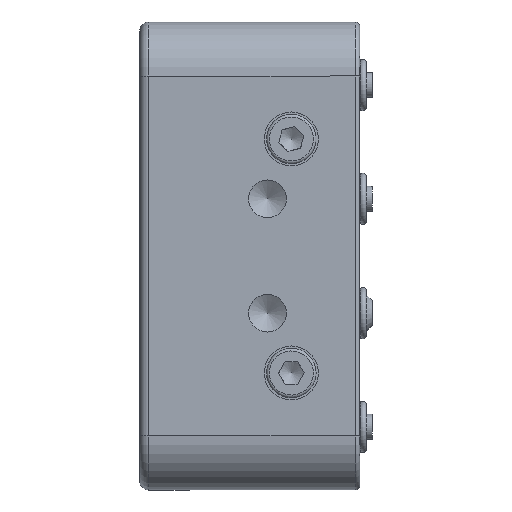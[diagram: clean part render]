
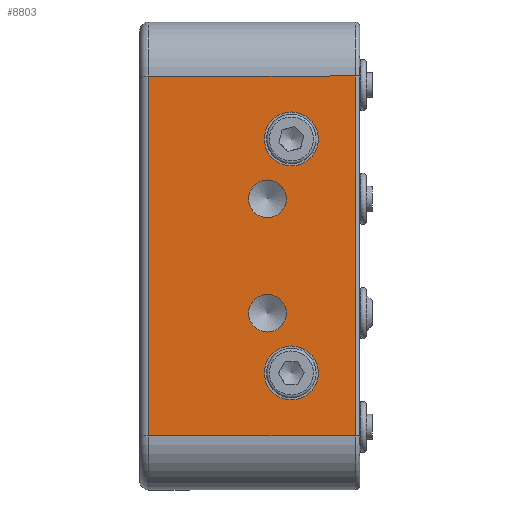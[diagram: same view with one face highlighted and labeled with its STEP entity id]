
A CAD part, left-side view. The second image highlights one B-rep face of the part: STEP entity #8803.
In plain terms, the highlighted planar face has unit normal (-1, 0, 0).
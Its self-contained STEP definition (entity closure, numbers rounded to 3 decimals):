
#276=FACE_BOUND('',#1423,.T.);
#277=FACE_BOUND('',#1424,.T.);
#278=FACE_BOUND('',#1425,.T.);
#279=FACE_BOUND('',#1426,.T.);
#464=PLANE('',#9731);
#885=FACE_OUTER_BOUND('',#1422,.T.);
#1422=EDGE_LOOP('',(#7358,#7359,#7360,#7361));
#1423=EDGE_LOOP('',(#7362,#7363));
#1424=EDGE_LOOP('',(#7364,#7365));
#1425=EDGE_LOOP('',(#7366,#7367));
#1426=EDGE_LOOP('',(#7368,#7369));
#1923=LINE('',#14502,#2537);
#2027=LINE('',#15665,#2641);
#2054=LINE('',#15784,#2668);
#2055=LINE('',#15786,#2669);
#2537=VECTOR('',#11467,10.);
#2641=VECTOR('',#11913,10.);
#2668=VECTOR('',#12056,10.);
#2669=VECTOR('',#12059,10.);
#3118=CIRCLE('',#9609,2.1);
#3119=CIRCLE('',#9610,2.1);
#3122=CIRCLE('',#9615,2.1);
#3123=CIRCLE('',#9616,2.1);
#3183=CIRCLE('',#9715,3.);
#3184=CIRCLE('',#9716,3.);
#3189=CIRCLE('',#9724,3.);
#3190=CIRCLE('',#9725,3.);
#3793=VERTEX_POINT('',#14495);
#3795=VERTEX_POINT('',#14501);
#3887=VERTEX_POINT('',#14918);
#3888=VERTEX_POINT('',#14919);
#3894=VERTEX_POINT('',#15031);
#3895=VERTEX_POINT('',#15032);
#3948=VERTEX_POINT('',#15657);
#3950=VERTEX_POINT('',#15663);
#3976=VERTEX_POINT('',#15754);
#3977=VERTEX_POINT('',#15755);
#3982=VERTEX_POINT('',#15771);
#3983=VERTEX_POINT('',#15772);
#4865=EDGE_CURVE('',#3793,#3795,#1923,.T.);
#5006=EDGE_CURVE('',#3887,#3888,#3118,.T.);
#5007=EDGE_CURVE('',#3888,#3887,#3119,.T.);
#5014=EDGE_CURVE('',#3894,#3895,#3122,.T.);
#5015=EDGE_CURVE('',#3895,#3894,#3123,.T.);
#5090=EDGE_CURVE('',#3950,#3948,#2027,.T.);
#5136=EDGE_CURVE('',#3976,#3977,#3183,.T.);
#5137=EDGE_CURVE('',#3977,#3976,#3184,.T.);
#5144=EDGE_CURVE('',#3982,#3983,#3189,.T.);
#5145=EDGE_CURVE('',#3983,#3982,#3190,.T.);
#5150=EDGE_CURVE('',#3948,#3793,#2054,.T.);
#5151=EDGE_CURVE('',#3795,#3950,#2055,.T.);
#7358=ORIENTED_EDGE('',*,*,#5090,.F.);
#7359=ORIENTED_EDGE('',*,*,#5151,.F.);
#7360=ORIENTED_EDGE('',*,*,#4865,.F.);
#7361=ORIENTED_EDGE('',*,*,#5150,.F.);
#7362=ORIENTED_EDGE('',*,*,#5006,.T.);
#7363=ORIENTED_EDGE('',*,*,#5007,.T.);
#7364=ORIENTED_EDGE('',*,*,#5014,.T.);
#7365=ORIENTED_EDGE('',*,*,#5015,.T.);
#7366=ORIENTED_EDGE('',*,*,#5136,.T.);
#7367=ORIENTED_EDGE('',*,*,#5137,.T.);
#7368=ORIENTED_EDGE('',*,*,#5144,.T.);
#7369=ORIENTED_EDGE('',*,*,#5145,.T.);
#8803=ADVANCED_FACE('',(#885,#276,#277,#278,#279),#464,.T.);
#9609=AXIS2_PLACEMENT_3D('',#14920,#11758,#11759);
#9610=AXIS2_PLACEMENT_3D('',#14921,#11760,#11761);
#9615=AXIS2_PLACEMENT_3D('',#15033,#11772,#11773);
#9616=AXIS2_PLACEMENT_3D('',#15034,#11774,#11775);
#9715=AXIS2_PLACEMENT_3D('',#15756,#12019,#12020);
#9716=AXIS2_PLACEMENT_3D('',#15757,#12021,#12022);
#9724=AXIS2_PLACEMENT_3D('',#15773,#12039,#12040);
#9725=AXIS2_PLACEMENT_3D('',#15774,#12041,#12042);
#9731=AXIS2_PLACEMENT_3D('',#15785,#12057,#12058);
#11467=DIRECTION('',(0.,0.,1.));
#11758=DIRECTION('center_axis',(1.,0.,0.));
#11759=DIRECTION('ref_axis',(0.,0.,
1.));
#11760=DIRECTION('center_axis',(1.,0.,0.));
#11761=DIRECTION('ref_axis',(0.,0.,
1.));
#11772=DIRECTION('center_axis',(1.,0.,0.));
#11773=DIRECTION('ref_axis',(0.,0.,
1.));
#11774=DIRECTION('center_axis',(1.,0.,0.));
#11775=DIRECTION('ref_axis',(0.,0.,
1.));
#11913=DIRECTION('',(0.,0.,-1.));
#12019=DIRECTION('center_axis',(1.,0.,0.));
#12020=DIRECTION('ref_axis',(0.,0.,
1.));
#12021=DIRECTION('center_axis',(1.,0.,0.));
#12022=DIRECTION('ref_axis',(0.,0.,
1.));
#12039=DIRECTION('center_axis',(1.,0.,0.));
#12040=DIRECTION('ref_axis',(0.,0.,
1.));
#12041=DIRECTION('center_axis',(1.,0.,0.));
#12042=DIRECTION('ref_axis',(0.,0.,
1.));
#12056=DIRECTION('',(0.,1.,0.));
#12057=DIRECTION('center_axis',(-1.,0.,0.));
#12058=DIRECTION('ref_axis',(0.,-1.,0.));
#12059=DIRECTION('',(0.,-1.,0.));
#14495=CARTESIAN_POINT('',(-19.05,28.6,-20.));
#14501=CARTESIAN_POINT('',(-19.05,28.6,20.));
#14502=CARTESIAN_POINT('',(-19.05,28.6,-13.));
#14918=CARTESIAN_POINT('',(-19.05,15.4,-4.25));
#14919=CARTESIAN_POINT('',(-19.05,15.4,-8.45));
#14920=CARTESIAN_POINT('Origin',(-19.05,15.4,-6.35));
#14921=CARTESIAN_POINT('Origin',(-19.05,15.4,-6.35));
#15031=CARTESIAN_POINT('',(-19.05,15.4,8.45));
#15032=CARTESIAN_POINT('',(-19.05,15.4,4.25));
#15033=CARTESIAN_POINT('Origin',(-19.05,15.4,6.35));
#15034=CARTESIAN_POINT('Origin',(-19.05,15.4,6.35));
#15657=CARTESIAN_POINT('',(-19.05,5.65,-20.));
#15663=CARTESIAN_POINT('',(-19.05,5.65,20.));
#15665=CARTESIAN_POINT('',(-19.05,5.65,-13.));
#15754=CARTESIAN_POINT('',(-19.05,12.75,16.));
#15755=CARTESIAN_POINT('',(-19.05,12.75,10.));
#15756=CARTESIAN_POINT('Origin',(-19.05,12.75,13.));
#15757=CARTESIAN_POINT('Origin',(-19.05,12.75,13.));
#15771=CARTESIAN_POINT('',(-19.05,12.75,-10.));
#15772=CARTESIAN_POINT('',(-19.05,12.75,-16.));
#15773=CARTESIAN_POINT('Origin',(-19.05,12.75,-13.));
#15774=CARTESIAN_POINT('Origin',(-19.05,12.75,-13.));
#15784=CARTESIAN_POINT('',(-19.05,24.1,-20.));
#15785=CARTESIAN_POINT('Origin',(-19.05,24.1,-26.));
#15786=CARTESIAN_POINT('',(-19.05,29.6,20.));
